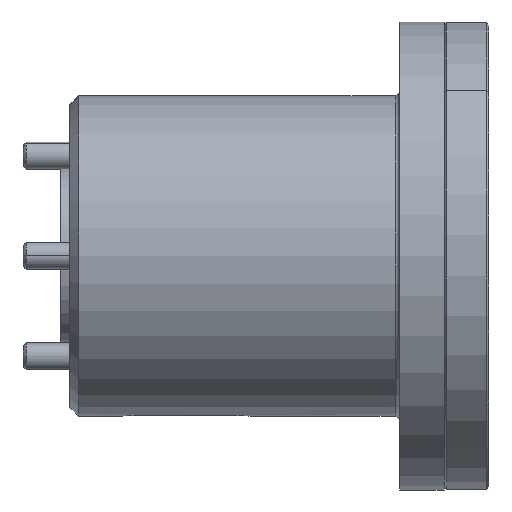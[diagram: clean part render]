
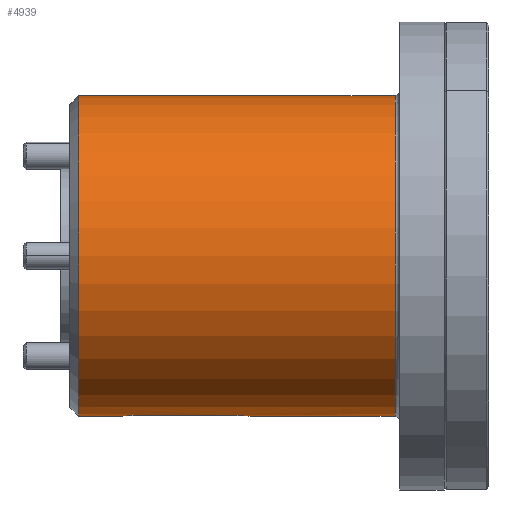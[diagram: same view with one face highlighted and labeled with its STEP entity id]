
A CAD part, top view. The second image highlights one B-rep face of the part: STEP entity #4939.
In plain terms, the highlighted cylindrical face has radius 36 mm (diameter 72 mm), a partial arc.
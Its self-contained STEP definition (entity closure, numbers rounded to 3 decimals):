
#38 = ORIENTED_EDGE ( 'NONE', *, *, #3041, .F. ) ;
#99 = CIRCLE ( 'NONE', #4365, 36. ) ;
#229 = DIRECTION ( 'NONE',  ( -1., 0., 0. ) ) ;
#460 = CARTESIAN_POINT ( 'NONE',  ( 126.5, 9.223, 13. ) ) ;
#470 = FACE_OUTER_BOUND ( 'NONE', #5803, .T. ) ;
#510 = DIRECTION ( 'NONE',  ( -1., 0., 0. ) ) ;
#540 = CARTESIAN_POINT ( 'NONE',  ( 125.5, 9., 9. ) ) ;
#586 = VECTOR ( 'NONE', #5116, 1000. ) ;
#657 = AXIS2_PLACEMENT_3D ( 'NONE', #4526, #510, #6773 ) ;
#675 = LINE ( 'NONE', #2890, #7056 ) ;
#763 = CARTESIAN_POINT ( 'NONE',  ( 67.5, 9.223, 13. ) ) ;
#905 = ORIENTED_EDGE ( 'NONE', *, *, #2053, .T. ) ;
#965 = EDGE_CURVE ( 'NONE', #7092, #2548, #3328, .T. ) ;
#985 = LINE ( 'NONE', #2171, #3800 ) ;
#1115 = CIRCLE ( 'NONE', #3435, 36. ) ;
#1147 = CARTESIAN_POINT ( 'NONE',  ( 125.5, 45., 9. ) ) ;
#1410 = CARTESIAN_POINT ( 'NONE',  ( 66.97, 9.223, 13. ) ) ;
#1656 = CYLINDRICAL_SURFACE ( 'NONE', #657, 36. ) ;
#1730 = B_SPLINE_CURVE_WITH_KNOTS ( 'NONE', 3,
 ( #6105, #6637, #4926, #7251, #6531, #7109, #4821, #2481, #1410, #763 ),
 .UNSPECIFIED., .F., .F.,
 ( 4, 2, 2, 2, 4 ),
 ( 0., 0.25, 0.5, 0.75, 1. ),
 .UNSPECIFIED. ) ;
#1744 = VERTEX_POINT ( 'NONE', #2602 ) ;
#1964 = VERTEX_POINT ( 'NONE', #540 ) ;
#2018 = CARTESIAN_POINT ( 'NONE',  ( 125.5, 81., 9. ) ) ;
#2053 = EDGE_CURVE ( 'NONE', #1744, #7092, #1730, .T. ) ;
#2162 = CARTESIAN_POINT ( 'NONE',  ( 93.398, 9.012, 10.041 ) ) ;
#2171 = CARTESIAN_POINT ( 'NONE',  ( 126.5, 81., 9. ) ) ;
#2239 = CARTESIAN_POINT ( 'NONE',  ( 90.542, 9.211, 12.898 ) ) ;
#2308 = CARTESIAN_POINT ( 'NONE',  ( 93.5, 9., 9. ) ) ;
#2346 = CARTESIAN_POINT ( 'NONE',  ( 54.5, 81., 9. ) ) ;
#2481 = CARTESIAN_POINT ( 'NONE',  ( 66.459, 9.211, 12.899 ) ) ;
#2548 = VERTEX_POINT ( 'NONE', #3047 ) ;
#2602 = CARTESIAN_POINT ( 'NONE',  ( 63.5, 9., 9. ) ) ;
#2629 = VERTEX_POINT ( 'NONE', #3314 ) ;
#2875 = CARTESIAN_POINT ( 'NONE',  ( 91.954, 9.141, 12.203 ) ) ;
#2890 = CARTESIAN_POINT ( 'NONE',  ( 126.5, 9., 9. ) ) ;
#3007 = DIRECTION ( 'NONE',  ( 0., 1., 0. ) ) ;
#3026 = CARTESIAN_POINT ( 'NONE',  ( 93.5, 9., 9. ) ) ;
#3041 = EDGE_CURVE ( 'NONE', #1964, #4342, #5418, .T. ) ;
#3047 = CARTESIAN_POINT ( 'NONE',  ( 89.5, 9.223, 13. ) ) ;
#3152 = ORIENTED_EDGE ( 'NONE', *, *, #3693, .F. ) ;
#3307 = EDGE_CURVE ( 'NONE', #3434, #1964, #1115, .T. ) ;
#3314 = CARTESIAN_POINT ( 'NONE',  ( 54.5, 9., 9. ) ) ;
#3328 = LINE ( 'NONE', #460, #586 ) ;
#3341 = DIRECTION ( 'NONE',  ( 0., 1., 0. ) ) ;
#3342 = CARTESIAN_POINT ( 'NONE',  ( 93.5, 9., 9.531 ) ) ;
#3434 = VERTEX_POINT ( 'NONE', #2018 ) ;
#3435 = AXIS2_PLACEMENT_3D ( 'NONE', #1147, #3592, #3007 ) ;
#3472 = DIRECTION ( 'NONE',  ( -1., 0., 0. ) ) ;
#3511 = ORIENTED_EDGE ( 'NONE', *, *, #3547, .T. ) ;
#3547 = EDGE_CURVE ( 'NONE', #3434, #5144, #985, .T. ) ;
#3592 = DIRECTION ( 'NONE',  ( 1., 0., 0. ) ) ;
#3693 = EDGE_CURVE ( 'NONE', #1744, #2629, #675, .T. ) ;
#3800 = VECTOR ( 'NONE', #4502, 1000. ) ;
#4074 = CARTESIAN_POINT ( 'NONE',  ( 92.703, 9.082, 11.454 ) ) ;
#4342 = VERTEX_POINT ( 'NONE', #3026 ) ;
#4365 = AXIS2_PLACEMENT_3D ( 'NONE', #7460, #6316, #3341 ) ;
#4445 = ORIENTED_EDGE ( 'NONE', *, *, #965, .T. ) ;
#4502 = DIRECTION ( 'NONE',  ( -1., 0., 0. ) ) ;
#4526 = CARTESIAN_POINT ( 'NONE',  ( 126.5, 45., 9. ) ) ;
#4821 = CARTESIAN_POINT ( 'NONE',  ( 65.478, 9.169, 12.492 ) ) ;
#4896 = CARTESIAN_POINT ( 'NONE',  ( 67.5, 9.223, 13. ) ) ;
#4926 = CARTESIAN_POINT ( 'NONE',  ( 63.602, 9.012, 10.042 ) ) ;
#4939 = ADVANCED_FACE ( 'NONE', ( #470 ), #1656, .T. ) ;
#5116 = DIRECTION ( 'NONE',  ( 1., 0., 0. ) ) ;
#5144 = VERTEX_POINT ( 'NONE', #2346 ) ;
#5418 = LINE ( 'NONE', #6604, #5796 ) ;
#5624 = CARTESIAN_POINT ( 'NONE',  ( 89.5, 9.223, 13. ) ) ;
#5774 = CARTESIAN_POINT ( 'NONE',  ( 90.03, 9.223, 13. ) ) ;
#5796 = VECTOR ( 'NONE', #229, 1000. ) ;
#5803 = EDGE_LOOP ( 'NONE', ( #38, #7400, #3511, #5815, #3152, #905, #4445, #7536 ) ) ;
#5815 = ORIENTED_EDGE ( 'NONE', *, *, #6708, .F. ) ;
#6105 = CARTESIAN_POINT ( 'NONE',  ( 63.5, 9., 9. ) ) ;
#6191 = EDGE_CURVE ( 'NONE', #2548, #4342, #7155, .T. ) ;
#6278 = CARTESIAN_POINT ( 'NONE',  ( 92.992, 9.053, 11.021 ) ) ;
#6316 = DIRECTION ( 'NONE',  ( -1., 0., 0. ) ) ;
#6531 = CARTESIAN_POINT ( 'NONE',  ( 64.296, 9.082, 11.453 ) ) ;
#6604 = CARTESIAN_POINT ( 'NONE',  ( 126.5, 9., 9. ) ) ;
#6637 = CARTESIAN_POINT ( 'NONE',  ( 63.5, 9., 9.53 ) ) ;
#6708 = EDGE_CURVE ( 'NONE', #2629, #5144, #99, .T. ) ;
#6773 = DIRECTION ( 'NONE',  ( 0., 1., 0. ) ) ;
#7056 = VECTOR ( 'NONE', #3472, 1000. ) ;
#7092 = VERTEX_POINT ( 'NONE', #4896 ) ;
#7109 = CARTESIAN_POINT ( 'NONE',  ( 65.047, 9.141, 12.204 ) ) ;
#7155 = B_SPLINE_CURVE_WITH_KNOTS ( 'NONE', 3,
 ( #5624, #5774, #2239, #7379, #2875, #4074, #6278, #2162, #3342, #2308 ),
 .UNSPECIFIED., .F., .F.,
 ( 4, 2, 2, 2, 4 ),
 ( 0., 0.25, 0.5, 0.75, 1. ),
 .UNSPECIFIED. ) ;
#7251 = CARTESIAN_POINT ( 'NONE',  ( 64.008, 9.053, 11.021 ) ) ;
#7379 = CARTESIAN_POINT ( 'NONE',  ( 91.521, 9.169, 12.492 ) ) ;
#7400 = ORIENTED_EDGE ( 'NONE', *, *, #3307, .F. ) ;
#7460 = CARTESIAN_POINT ( 'NONE',  ( 54.5, 45., 9. ) ) ;
#7536 = ORIENTED_EDGE ( 'NONE', *, *, #6191, .T. ) ;
